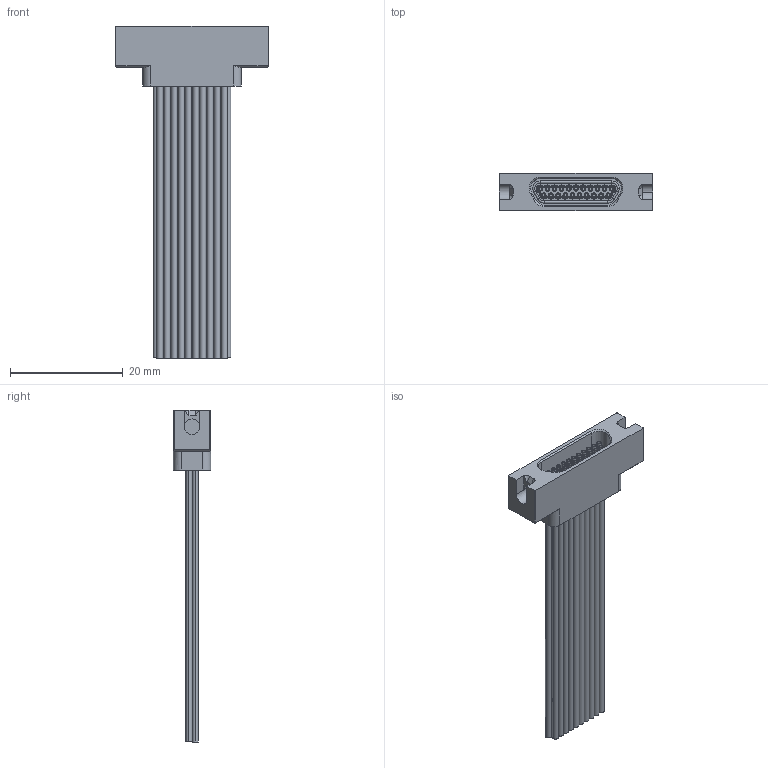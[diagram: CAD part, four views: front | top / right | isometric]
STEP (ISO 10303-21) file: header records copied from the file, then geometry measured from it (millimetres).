
FILE_DESCRIPTION (( 'STEP AP214' ), '1' );
FILE_NAME ('A99150-021 REV B.STEP', '2013-01-11T19:45:12', ( '' ), ( '' ), 'SwSTEP 2.0', 'SolidWorks 2012', '' );
FILE_SCHEMA (( 'AUTOMOTIVE_DESIGN' ));
Length unit declared in the file: inch
Products named in the file (1): A99150-021 REV A
Bounding box: 27.3 x 6.62 x 58.88 mm (x, y, z)
Volume: 2266 mm3; surface area: 5678.9 mm2
Topology: 1 solids, 46 shells, 934 faces, 2118 edges, 1369 vertices
Faces by surface type: cylinder 425, plane 354, torus 92, bspline 54, cone 9
Entity records: 29383 total; most frequent: CARTESIAN_POINT 7684, DIRECTION 4787, ORIENTED_EDGE 4224, EDGE_CURVE 2112, AXIS2_PLACEMENT_3D 1920, VERTEX_POINT 1369, EDGE_LOOP 1119, CIRCLE 1039
